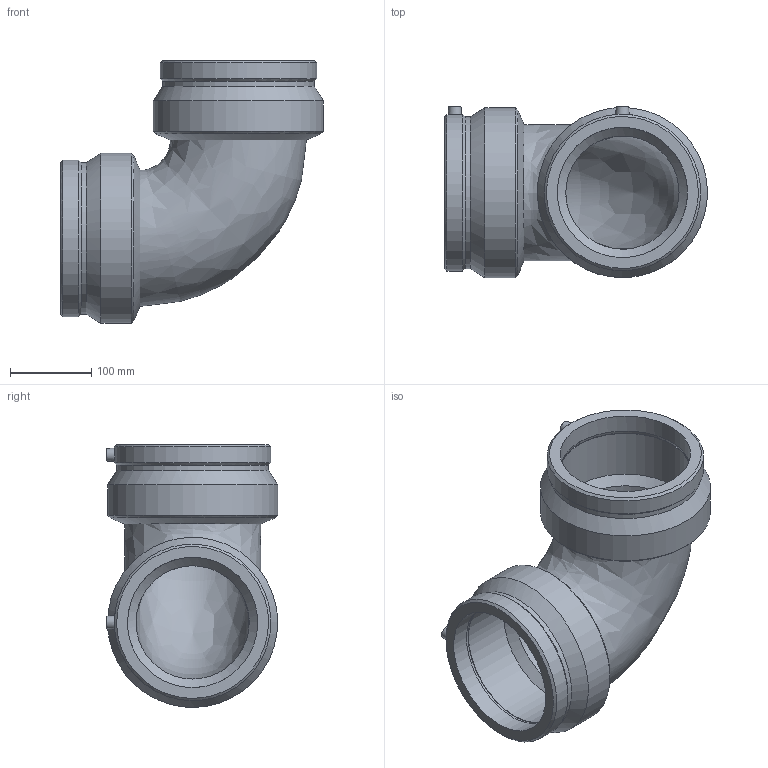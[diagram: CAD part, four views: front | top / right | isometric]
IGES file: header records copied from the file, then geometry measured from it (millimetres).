
Global section: file name: 490504160; native system: Autodesk Inventor 2026; preprocessor: unknown; author: KIM; date: 20260322.131250; units: millimetre
Bounding box: 322.96 x 210.5 x 322.96 mm (x, y, z)
Volume: 3526688.7 mm3; surface area: 446457.7 mm2
Topology: 1 solids, 1 shells, 44 faces, 112 edges, 78 vertices
Faces by surface type: bspline 44
